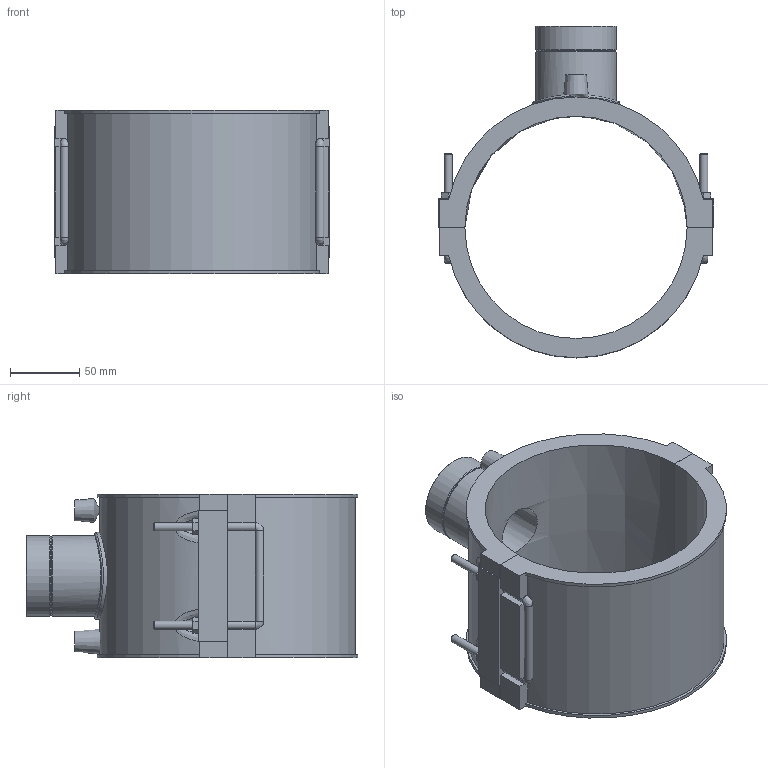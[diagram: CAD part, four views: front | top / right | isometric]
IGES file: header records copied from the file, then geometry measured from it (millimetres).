
Global section: file name: 493804160015.ipt; native system: Autodesk Inventor 2015; preprocessor: unknown; author: KIM; date: 20171106.094109; units: millimetre
Bounding box: 198 x 238.84 x 118 mm (x, y, z)
Volume: 910619.8 mm3; surface area: 183512.7 mm2
Topology: 2 solids, 4 shells, 158 faces, 396 edges, 250 vertices
Faces by surface type: plane 90, cylinder 28, bspline 17, revolution 14, cone 9
Full cylindrical faces by diameter (mm): 4 x2, 6 x8, 57.298 x1, 58.298 x2, 62.783 x1
